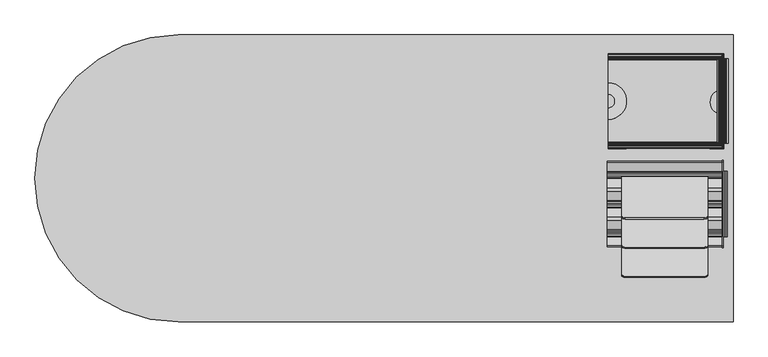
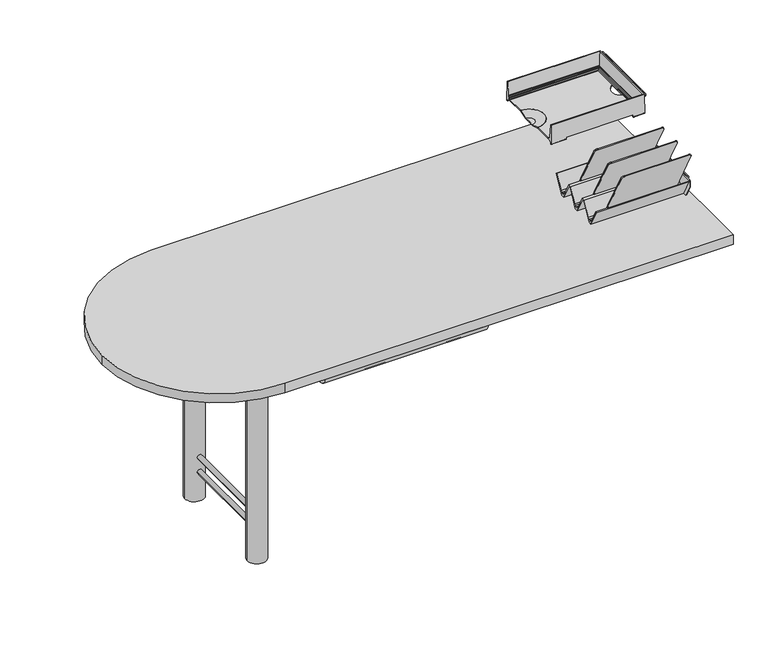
"""IFC4 building model written with IfcOpenShell, lengths in millimetres: proxy geometry, E0063 - Workstation, L-Shaped wPeninsula, Wall Mtd, 72x72 (1) : E0063 - Workstation, L-Shaped wPeninsula, Wall Mtd, 72x72 (1)."""

from ifc_helpers import new_model, si_unit, point, frame, frame_2d, origin, origin_with_axes, place, context, project, spatial, polyline, circle_curve, ellipse_curve, trimmed, segment, composite_curve, outline, extrude, source, transform, mapped, element, save
from ifc_brep_helpers import plane_surface, cylinder_surface, revolved_surface, extruded_surface, advanced_brep


def specialty_equipment_3f53ea4d(model_context):
    return source(origin(), model_context, "Body", "SolidModel", [
        extrude(outline(composite_curve([segment(trimmed(circle_curve(frame_2d((596.9, -546.1)), 7.9375), [point((596.9, -554.0375))], [point((596.9, -538.1625))], False, "CARTESIAN"), True, "CONTINUOUS"), segment(trimmed(circle_curve(frame_2d((596.9, -546.1)), 7.9375), [point((596.9, -538.1625))], [point((596.9, -554.0375))], False, "CARTESIAN"), True, "CONTINUOUS")], self_intersect=False)), frame((0.0, 381.0, 0.0), z_axis=(0.0, 1.0, 0.0), x_axis=(0.0, 0.0, 1.0)), (0.0, 0.0, 1.0), 304.8),
        extrude(outline(composite_curve([segment(trimmed(circle_curve(frame_2d((546.1, -546.1)), 7.9375), [point((546.1, -538.1625))], [point((546.1, -554.0375))], False, "CARTESIAN"), True, "CONTINUOUS"), segment(trimmed(circle_curve(frame_2d((546.1, -546.1)), 7.9375), [point((546.1, -554.0375))], [point((546.1, -538.1625))], False, "CARTESIAN"), True, "CONTINUOUS")], self_intersect=False)), frame((0.0, 381.0, 0.0), z_axis=(0.0, 1.0, 0.0), x_axis=(0.0, 0.0, 1.0)), (0.0, 0.0, 1.0), 304.8),
        extrude(outline(composite_curve([segment(trimmed(circle_curve(frame_2d((152.4, -546.1)), 7.9375), [point((152.4, -554.0375))], [point((152.4, -538.1625))], False, "CARTESIAN"), True, "CONTINUOUS"), segment(trimmed(circle_curve(frame_2d((152.4, -546.1)), 7.9375), [point((152.4, -538.1625))], [point((152.4, -554.0375))], False, "CARTESIAN"), True, "CONTINUOUS")], self_intersect=False)), frame((0.0, 381.0, 0.0), z_axis=(0.0, 1.0, 0.0), x_axis=(0.0, 0.0, 1.0)), (0.0, 0.0, 1.0), 304.8),
        extrude(outline(composite_curve([segment(trimmed(circle_curve(frame_2d((101.6, -546.1)), 7.9375), [point((101.6, -538.1625))], [point((101.6, -554.0375))], False, "CARTESIAN"), True, "CONTINUOUS"), segment(trimmed(circle_curve(frame_2d((101.6, -546.1)), 7.9375), [point((101.6, -554.0375))], [point((101.6, -538.1625))], False, "CARTESIAN"), True, "CONTINUOUS")], self_intersect=False)), frame((0.0, 381.0, 0.0), z_axis=(0.0, 1.0, 0.0), x_axis=(0.0, 0.0, 1.0)), (0.0, 0.0, 1.0), 304.8),
        extrude(outline(composite_curve([segment(trimmed(circle_curve(frame_2d((-546.1, 711.2)), 31.75), [point((-577.85, 711.2))], [point((-514.35, 711.2))], False, "CARTESIAN"), True, "CONTINUOUS"), segment(trimmed(circle_curve(frame_2d((-546.1, 711.2)), 31.75), [point((-514.35, 711.2))], [point((-577.85, 711.2))], False, "CARTESIAN"), True, "CONTINUOUS")], self_intersect=False)), origin_with_axes(), (0.0, 0.0, 1.0), 704.85),
        extrude(outline(composite_curve([segment(trimmed(circle_curve(frame_2d((-546.1, 355.6)), 31.75), [point((-577.85, 355.6))], [point((-514.35, 355.6))], False, "CARTESIAN"), True, "CONTINUOUS"), segment(trimmed(circle_curve(frame_2d((-546.1, 355.6)), 31.75), [point((-514.35, 355.6))], [point((-577.85, 355.6))], False, "CARTESIAN"), True, "CONTINUOUS")], self_intersect=False)), origin_with_axes(), (0.0, 0.0, 1.0), 704.85),
        extrude(outline(composite_curve([segment(polyline([(-571.5, 914.4), (901.7, 914.4), (901.7, 152.4), (-571.5, 152.4)]), True, "CONTINUOUS"), segment(trimmed(circle_curve(frame_2d((-571.5, 533.4)), 381.0), [point((-571.5, 152.4))], [point((-952.5, 533.4))], False, "CARTESIAN"), True, "CONTINUOUS"), segment(trimmed(circle_curve(frame_2d((-571.5, 533.4)), 381.0), [point((-952.5, 533.4))], [point((-571.5, 914.4))], False, "CARTESIAN"), True, "CONTINUOUS")], self_intersect=False)), frame((0.0, 0.0, 704.85), z_axis=(0.0, 0.0, 1.0), x_axis=(1.0, 0.0, 0.0)), (0.0, 0.0, 1.0), 31.75),
        advanced_brep(
        [(93.6625004, 174.625, 704.85), (93.6625004, 174.625, 682.625), (93.6625004, 155.575, 704.85), (-436.5624996, 155.575, 704.85), (-436.5624996, 174.625, 682.625), (-436.5624996, 174.625, 704.85), (-439.7374996, 177.8, 679.45), (-439.7374996, 152.4, 704.85), (-439.7374996, 177.8, 704.85), (96.8375004, 177.8, 679.45), (96.8375004, 177.8, 704.85), (96.8375004, 152.4, 704.85)],
        [
            (0, 1),
            (1, 2, circle_curve(frame((93.6625004, 174.6924161, 701.9595709), z_axis=(-1.0, 0.0, 0.0), x_axis=(0.0, 1.0, 0.0)), 19.3346885)),
            (2, 0),
            (3, 4, circle_curve(frame((-436.5624996, 174.6924161, 701.9595709), z_axis=(1.0, 0.0, 0.0), x_axis=(0.0, 1.0, 0.0)), 19.3346885)),
            (4, 5),
            (5, 3),
            (1, 4),
            (3, 2),
            (0, 5),
            (6, 7, circle_curve(frame((-439.7374996, 177.8, 704.85), z_axis=(-1.0, 0.0, 0.0), x_axis=(0.0, -1.0, 0.0)), 25.4)),
            (7, 8),
            (8, 6),
            (9, 10),
            (10, 11),
            (11, 9, circle_curve(frame((96.8375004, 177.8, 704.85), z_axis=(1.0, 0.0, 0.0), x_axis=(0.0, -1.0, 0.0)), 25.4)),
            (6, 9),
            (11, 7),
            (10, 8),
        ],
        [
            plane_surface(frame((93.6625004, 155.575, 704.85), z_axis=(-1.0, 0.0, 0.0), x_axis=(0.0, -1.0, 0.0))),
            plane_surface(frame((-436.5624996, 155.575, 704.85), z_axis=(1.0, 0.0, 0.0), x_axis=(0.0, 1.0, 0.0))),
            revolved_surface(polyline([(93.6625004, 194.0271046, 701.9595709), (-436.5624996, 194.0271046, 701.9595709)]), (-436.5624996, 174.6924161, 701.9595709), (1.0, 0.0, 0.0)),
            plane_surface(frame((93.6625004, 174.625, 682.625), z_axis=(0.0, -1.0, 0.0), x_axis=(-1.0, 0.0, 0.0))),
            plane_surface(frame((-439.7374996, 152.4, 704.85), z_axis=(-1.0, 0.0, 0.0), x_axis=(0.0, 0.0, 1.0))),
            plane_surface(frame((96.8375004, 152.4, 704.85), z_axis=(1.0, 0.0, 0.0), x_axis=(0.0, 0.0, -1.0))),
            cylinder_surface(frame((96.8375004, 177.8, 704.85), z_axis=(-1.0, 0.0, 0.0), x_axis=(0.0, -1.0, 0.0)), 25.4),
            plane_surface(frame((-439.7374996, 152.4, 704.85), z_axis=(0.0, 0.0, 1.0), x_axis=(1.0, 0.0, 0.0))),
            plane_surface(frame((-439.7374996, 177.8, 704.85), z_axis=(0.0, 1.0, 0.0), x_axis=(1.0, 0.0, 0.0))),
        ],
        [
            (0, [[1, 2, 3]]),
            (1, [[4, 5, 6]]),
            (2, [[-2, 7, -4, 8]]),
            (3, [[-1, 9, -5, -7]]),
            (4, [[10, 11, 12]]),
            (5, [[13, 14, 15]]),
            (6, [[-10, 16, -15, 17]]),
            (7, [[-11, -17, -14, 18], [-3, -8, -6, -9]]),
            (8, [[-12, -18, -13, -16]]),
        ],
    ),
        extrude(outline(polyline([(565.15, 657.225), (276.225, 657.225), (254.0, 679.45), (177.8, 679.45), (177.8, 704.85), (565.15, 704.85), (565.15, 657.225)])), frame((-427.0374996, 0.0, 0.0), z_axis=(1.0, 0.0, 0.0), x_axis=(0.0, 1.0, 0.0)), (0.0, 0.0, 1.0), 511.175),
        extrude(outline(composite_curve([segment(polyline([(808.2903556, 882.3765475), (805.7126048, 882.3765475)]), True, "CONTINUOUS"), segment(trimmed(circle_curve(frame_2d((805.7126048, 884.2815465)), 1.904999), [point((805.7126048, 882.3765475))], [point((805.7126048, 886.1865456))], False, "CARTESIAN"), True, "CONTINUOUS"), segment(polyline([(805.7126048, 886.1865456), (808.2903556, 886.1865456), (812.1003555, 882.3765457), (812.1003555, 878.0516564), (815.2791427, 875.4955682), (805.7342674, 875.4955682), (808.2903556, 878.0516564), (808.2903556, 882.3765475)]), True, "CONTINUOUS")], self_intersect=False)), frame((0.0, 378.4141269, 0.0), z_axis=(0.0, 1.0, 0.0), x_axis=(0.0, 0.0, 1.0)), (0.0, 0.0, 1.0), 174.0691284),
        extrude(outline(polyline([(371.5299541, 751.7791442), (349.5177621, 793.4691049), (349.5177621, 812.1041426), (353.8554334, 815.2791427), (578.1177691, 815.2791427), (581.2927682, 812.1041436), (581.2927682, 793.4691049), (559.2805852, 751.7791442), (371.5299541, 751.7791442)])), frame((872.320556, 0.0, 0.0), z_axis=(1.0, 0.0, 0.0), x_axis=(0.0, 1.0, 0.0)), (0.0, 0.0, 1.0), 3.1750122),
        extrude(outline(polyline([(470.886173, 751.7791442), (460.0105726, 751.7791442), (432.2780121, 804.3032056), (430.1364518, 806.5697873), (426.8580817, 807.4815204), (423.5797026, 806.5697873), (421.1900028, 804.0405801), (393.5331709, 751.7791442), (382.7437682, 751.7791442), (352.0214429, 809.9656902), (354.1356403, 811.0819874), (378.3004131, 765.6346538), (381.3967756, 761.9792983), (385.7432036, 759.9648546), (390.533736, 759.9648546), (394.880164, 761.9792983), (398.0654919, 765.7396803), (422.1518784, 811.1516427), (431.5246897, 811.1516427), (455.9950602, 765.1295717), (458.66358, 761.9792983), (463.0099989, 759.9648546), (467.8005404, 759.9648546), (472.1469594, 762.4146188), (475.4225609, 765.9741063), (499.2761719, 811.1516427), (508.791507, 811.1516427), (533.2619049, 765.1295189), (535.9303799, 761.9792983), (540.2767943, 759.9648546), (545.0673403, 759.9648546), (549.4137547, 761.9792983), (552.5101336, 765.6346704), (576.5429704, 811.1516472), (578.7891043, 809.9656946), (548.0667666, 751.7791442), (537.2773677, 751.7791442), (509.5448122, 804.3032065), (507.4032527, 806.5697873), (504.1248781, 807.4815204), (500.846499, 806.5697873), (498.5095414, 804.0964013), (470.886173, 751.7791442)])), frame((567.5205682, 0.0, 0.0), z_axis=(1.0, 0.0, 0.0), x_axis=(0.0, 1.0, 0.0)), (0.0, 0.0, 1.0), 304.7999878),
        advanced_brep(
        [(605.62055, 277.9568797, 961.5537347), (615.5250327, 273.7462888, 969.4824254), (824.3964237, 273.7462888, 969.4824254), (834.2205546, 277.9568797, 961.5537347), (834.2205546, 388.6816064, 753.0551802), (605.62055, 388.6816064, 753.0551802), (605.62055, 275.1547674, 960.0656519), (605.62055, 385.8794942, 751.5670974), (834.2205546, 385.8794942, 751.5670974), (834.2205546, 275.1547674, 960.0656519), (824.3964237, 270.9441766, 967.9943426), (615.5250327, 270.9441766, 967.9943426)],
        [
            (0, 1, ellipse_curve(frame((615.7887264, 277.9568797, 961.5537347), z_axis=(0.0, 0.883186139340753, 0.46902264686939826), x_axis=(-1.0, 0.0, 0.0)), 10.1681764, 8.9803925)),
            (1, 2),
            (2, 3, ellipse_curve(frame((824.0498928, 277.9568797, 961.5537347), z_axis=(0.0, 0.8831861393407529, 0.4690226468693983), x_axis=(1.0, 0.0, 0.0)), 10.1706618, 8.9825875)),
            (3, 4),
            (4, 5),
            (5, 0),
            (6, 7),
            (7, 8),
            (8, 9),
            (9, 10, ellipse_curve(frame((824.0498928, 275.1547674, 960.0656519), z_axis=(0.0, -0.8831861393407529, -0.4690226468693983), x_axis=(1.0, 0.0, 0.0)), 10.1706618, 8.9825875)),
            (10, 11),
            (11, 6, ellipse_curve(frame((615.7887264, 275.1547674, 960.0656519), z_axis=(0.0, -0.883186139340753, -0.46902264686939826), x_axis=(-1.0, 0.0, 0.0)), 10.1681764, 8.9803925)),
            (1, 11),
            (10, 2),
            (4, 8),
            (7, 5),
            (6, 0),
            (9, 3),
        ],
        [
            plane_surface(frame((605.62055, 277.9568797, 961.5537347), z_axis=(0.0, 0.883186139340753, 0.4690226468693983), x_axis=(0.0, -0.4690226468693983, 0.883186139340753))),
            plane_surface(frame((605.62055, 275.1547674, 960.0656519), z_axis=(0.0, -0.883186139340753, -0.4690226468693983), x_axis=(0.0, 0.4690226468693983, -0.883186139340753))),
            plane_surface(frame((615.5250327, 273.7462888, 969.4824254), z_axis=(0.0, -0.4690226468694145, 0.8831861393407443), x_axis=(0.0, -0.8831861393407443, -0.4690226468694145))),
            plane_surface(frame((834.2205546, 388.6816064, 753.0551802), z_axis=(0.0, 0.4690226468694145, -0.8831861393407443), x_axis=(0.0, -0.8831861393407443, -0.4690226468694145))),
            plane_surface(frame((605.62055, 388.6816064, 753.0551802), z_axis=(-1.0, 0.0, 0.0), x_axis=(0.0, -0.8831861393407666, -0.46902264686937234))),
            extruded_surface(trimmed(ellipse_curve(frame((615.7887264, 272.3526552, 958.5775691), z_axis=(0.0, 0.883186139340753, 0.46902264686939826), x_axis=(-1.0, 0.0, 0.0)), 10.1681764, 8.9803925), [point((605.62055, 272.3526552, 958.5775691))], [point((615.5250327, 268.1420643, 966.5062598))], True, "CARTESIAN"), (0.0, 2.8021122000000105, 1.4880828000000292), 3.172731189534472),
            extruded_surface(trimmed(ellipse_curve(frame((824.0498928, 272.3526552, 958.5775691), z_axis=(0.0, 0.8831861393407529, 0.4690226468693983), x_axis=(1.0, 0.0, 0.0)), 10.1706618, 8.9825875), [point((824.3964237, 268.1420643, 966.5062598))], [point((834.2205546, 272.3526552, 958.5775691))], True, "CARTESIAN"), (0.0, 2.8021122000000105, 1.4880828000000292), 3.172731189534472),
            plane_surface(frame((834.2205546, 277.9568797, 961.5537347), z_axis=(1.0, 0.0, 0.0), x_axis=(0.0, -0.8831861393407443, -0.4690226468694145))),
        ],
        [
            (0, [[1, 2, 3, 4, 5, 6]]),
            (1, [[7, 8, 9, 10, 11, 12]]),
            (2, [[-2, 13, -11, 14]]),
            (3, [[-5, 15, -8, 16]]),
            (4, [[-6, -16, -7, 17]]),
            (5, [[-1, -17, -12, -13]]),
            (6, [[-3, -14, -10, 18]]),
            (7, [[-4, -18, -9, -15]]),
        ],
    ),
        advanced_brep(
        [(605.62055, 355.2236841, 961.5537347), (615.5250327, 351.0130933, 969.4824254), (824.3964237, 351.0130933, 969.4824254), (834.2205546, 355.2236841, 961.5537347), (834.2205546, 465.9484108, 753.0551802), (605.62055, 465.9484108, 753.0551802), (605.62055, 352.4215719, 960.0656519), (605.62055, 463.1462986, 751.5670974), (834.2205546, 463.1462986, 751.5670974), (834.2205546, 352.4215719, 960.0656519), (824.3964237, 348.210981, 967.9943426), (615.5250327, 348.210981, 967.9943426)],
        [
            (0, 1, ellipse_curve(frame((615.7887264, 355.2236841, 961.5537347), z_axis=(0.0, 0.883186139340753, 0.46902264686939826), x_axis=(-1.0, 0.0, 0.0)), 10.1681764, 8.9803925)),
            (1, 2),
            (2, 3, ellipse_curve(frame((824.0498928, 355.2236841, 961.5537347), z_axis=(0.0, 0.8831861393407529, 0.4690226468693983), x_axis=(1.0, 0.0, 0.0)), 10.1706618, 8.9825875)),
            (3, 4),
            (4, 5),
            (5, 0),
            (6, 7),
            (7, 8),
            (8, 9),
            (9, 10, ellipse_curve(frame((824.0498928, 352.4215719, 960.0656519), z_axis=(0.0, -0.8831861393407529, -0.4690226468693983), x_axis=(1.0, 0.0, 0.0)), 10.1706618, 8.9825875)),
            (10, 11),
            (11, 6, ellipse_curve(frame((615.7887264, 352.4215719, 960.0656519), z_axis=(0.0, -0.883186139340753, -0.46902264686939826), x_axis=(-1.0, 0.0, 0.0)), 10.1681764, 8.9803925)),
            (1, 11),
            (10, 2),
            (4, 8),
            (7, 5),
            (6, 0),
            (9, 3),
        ],
        [
            plane_surface(frame((605.62055, 355.2236841, 961.5537347), z_axis=(0.0, 0.883186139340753, 0.4690226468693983), x_axis=(0.0, -0.4690226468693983, 0.883186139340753))),
            plane_surface(frame((605.62055, 352.4215719, 960.0656519), z_axis=(0.0, -0.883186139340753, -0.4690226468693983), x_axis=(0.0, 0.4690226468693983, -0.883186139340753))),
            plane_surface(frame((615.5250327, 351.0130933, 969.4824254), z_axis=(0.0, -0.46902264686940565, 0.883186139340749), x_axis=(0.0, -0.883186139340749, -0.46902264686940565))),
            plane_surface(frame((834.2205546, 465.9484108, 753.0551802), z_axis=(0.0, 0.46902264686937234, -0.8831861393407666), x_axis=(0.0, -0.8831861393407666, -0.46902264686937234))),
            plane_surface(frame((605.62055, 465.9484108, 753.0551802), z_axis=(-1.0, 0.0, 0.0), x_axis=(0.0, -0.8831861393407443, -0.4690226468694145))),
            extruded_surface(trimmed(ellipse_curve(frame((615.7887264, 349.6194596, 958.5775691), z_axis=(0.0, 0.883186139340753, 0.46902264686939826), x_axis=(-1.0, 0.0, 0.0)), 10.1681764, 8.9803925), [point((605.62055, 349.6194596, 958.5775691))], [point((615.5250327, 345.4088688, 966.5062598))], True, "CARTESIAN"), (0.0, 2.802112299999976, 1.4880828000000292), 3.172731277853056),
            extruded_surface(trimmed(ellipse_curve(frame((824.0498928, 349.6194596, 958.5775691), z_axis=(0.0, 0.8831861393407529, 0.4690226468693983), x_axis=(1.0, 0.0, 0.0)), 10.1706618, 8.9825875), [point((824.3964237, 345.4088688, 966.5062598))], [point((834.2205546, 349.6194596, 958.5775691))], True, "CARTESIAN"), (0.0, 2.802112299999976, 1.4880828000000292), 3.172731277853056),
            plane_surface(frame((834.2205546, 355.2236841, 961.5537347), z_axis=(1.0, 0.0, 0.0), x_axis=(0.0, -0.8831861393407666, -0.46902264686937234))),
        ],
        [
            (0, [[1, 2, 3, 4, 5, 6]]),
            (1, [[7, 8, 9, 10, 11, 12]]),
            (2, [[-2, 13, -11, 14]]),
            (3, [[-5, 15, -8, 16]]),
            (4, [[-6, -16, -7, 17]]),
            (5, [[-1, -17, -12, -13]]),
            (6, [[-3, -14, -10, 18]]),
            (7, [[-4, -18, -9, -15]]),
        ],
    ),
        advanced_brep(
        [(605.62055, 432.4904792, 961.5537347), (615.5250327, 428.2798883, 969.4824254), (824.3964237, 428.2798883, 969.4824254), (834.2205546, 432.4904792, 961.5537347), (834.2205546, 543.2152059, 753.0551802), (605.62055, 543.2152059, 753.0551802), (605.62055, 429.6883669, 960.0656519), (605.62055, 540.4130937, 751.5670974), (834.2205546, 540.4130937, 751.5670974), (834.2205546, 429.6883669, 960.0656519), (824.3964237, 425.4777761, 967.9943426), (615.5250327, 425.4777761, 967.9943426)],
        [
            (0, 1, ellipse_curve(frame((615.7887264, 432.4904792, 961.5537347), z_axis=(0.0, 0.883186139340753, 0.46902264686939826), x_axis=(-1.0, 0.0, 0.0)), 10.1681764, 8.9803925)),
            (1, 2),
            (2, 3, ellipse_curve(frame((824.0498928, 432.4904792, 961.5537347), z_axis=(0.0, 0.8831861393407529, 0.4690226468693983), x_axis=(1.0, 0.0, 0.0)), 10.1706618, 8.9825875)),
            (3, 4),
            (4, 5),
            (5, 0),
            (6, 7),
            (7, 8),
            (8, 9),
            (9, 10, ellipse_curve(frame((824.0498928, 429.6883669, 960.0656519), z_axis=(0.0, -0.8831861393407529, -0.4690226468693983), x_axis=(1.0, 0.0, 0.0)), 10.1706618, 8.9825875)),
            (10, 11),
            (11, 6, ellipse_curve(frame((615.7887264, 429.6883669, 960.0656519), z_axis=(0.0, -0.883186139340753, -0.46902264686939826), x_axis=(-1.0, 0.0, 0.0)), 10.1681764, 8.9803925)),
            (1, 11),
            (10, 2),
            (4, 8),
            (7, 5),
            (6, 0),
            (9, 3),
        ],
        [
            plane_surface(frame((605.62055, 432.4904792, 961.5537347), z_axis=(0.0, 0.883186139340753, 0.4690226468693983), x_axis=(0.0, -0.4690226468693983, 0.883186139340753))),
            plane_surface(frame((605.62055, 429.6883669, 960.0656519), z_axis=(0.0, -0.883186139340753, -0.4690226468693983), x_axis=(0.0, 0.4690226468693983, -0.883186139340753))),
            plane_surface(frame((615.5250327, 428.2798883, 969.4824254), z_axis=(0.0, -0.4690226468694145, 0.8831861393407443), x_axis=(0.0, -0.8831861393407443, -0.4690226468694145))),
            plane_surface(frame((834.2205546, 543.2152059, 753.0551802), z_axis=(0.0, 0.4690226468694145, -0.8831861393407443), x_axis=(0.0, -0.8831861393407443, -0.4690226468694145))),
            plane_surface(frame((605.62055, 543.2152059, 753.0551802), z_axis=(-1.0, 0.0, 0.0), x_axis=(0.0, -0.8831861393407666, -0.46902264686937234))),
            extruded_surface(trimmed(ellipse_curve(frame((615.7887264, 426.8862547, 958.5775691), z_axis=(0.0, 0.883186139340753, 0.46902264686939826), x_axis=(-1.0, 0.0, 0.0)), 10.1681764, 8.9803925), [point((605.62055, 426.8862547, 958.5775691))], [point((615.5250327, 422.6756639, 966.5062598))], True, "CARTESIAN"), (0.0, 2.8021122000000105, 1.4880828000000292), 3.172731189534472),
            extruded_surface(trimmed(ellipse_curve(frame((824.0498928, 426.8862547, 958.5775691), z_axis=(0.0, 0.8831861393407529, 0.4690226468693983), x_axis=(1.0, 0.0, 0.0)), 10.1706618, 8.9825875), [point((824.3964237, 422.6756639, 966.5062598))], [point((834.2205546, 426.8862547, 958.5775691))], True, "CARTESIAN"), (0.0, 2.8021122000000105, 1.4880828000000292), 3.172731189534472),
            plane_surface(frame((834.2205546, 432.4904792, 961.5537347), z_axis=(1.0, 0.0, 0.0), x_axis=(0.0, -0.8831861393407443, -0.4690226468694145))),
        ],
        [
            (0, [[1, 2, 3, 4, 5, 6]]),
            (1, [[7, 8, 9, 10, 11, 12]]),
            (2, [[-2, 13, -11, 14]]),
            (3, [[-5, 15, -8, 16]]),
            (4, [[-6, -16, -7, 17]]),
            (5, [[-1, -17, -12, -13]]),
            (6, [[-3, -14, -10, 18]]),
            (7, [[-4, -18, -9, -15]]),
        ],
    ),
        advanced_brep(
        [(569.902809, 613.6244171, 954.685821), (569.902809, 616.3021779, 954.685821), (569.902809, 619.9189952, 909.8987299), (569.902809, 620.3446051, 907.1652349), (569.902809, 621.6795346, 904.4641961), (569.902809, 623.7913243, 902.3152311), (569.902809, 626.4686499, 900.9333558), (569.902809, 629.4436319, 900.4568348), (569.902809, 629.4436319, 897.6347267), (569.902809, 624.1902961, 897.4417283), (569.902809, 621.1516189, 896.3853514), (569.902809, 618.51537, 894.5415118), (569.902809, 616.4807558, 892.0495375), (569.902809, 615.5944182, 889.0062952), (569.902809, 612.6749198, 889.2863786), (876.0103619, 613.6244171, 954.685821), (876.0103619, 863.8895229, 954.685821), (569.902809, 863.8895229, 954.685821), (569.902809, 861.211762, 954.685821), (873.3326011, 861.211762, 954.685821), (873.3326011, 616.3021779, 954.685821), (869.7157837, 619.9189952, 909.8987299), (869.2901738, 620.3446051, 907.1652349), (867.9552444, 621.6795346, 904.4641961), (865.8434547, 623.7913243, 902.3152311), (863.166129, 626.4686499, 900.9333558), (860.1911471, 629.4436319, 900.4568348), (860.1911471, 629.4436319, 897.6347267), (865.4444829, 624.1902961, 897.4417283), (868.48316, 621.1516189, 896.3853514), (839.8062283, 621.1516189, 896.3853514), (618.6180678, 621.1516189, 896.3853514), (618.6180678, 618.51537, 894.5415118), (871.119409, 618.51537, 894.5415118), (839.8062283, 618.51537, 894.5415118), (618.6180678, 616.4807558, 892.0495375), (873.1540232, 616.4807558, 892.0495375), (839.8062283, 616.4807558, 892.0495375), (618.6180678, 615.5944182, 889.0062952), (874.0403608, 615.5944182, 889.0062952), (839.8062283, 615.5944182, 889.0062952), (618.6180678, 612.6749198, 889.2863786), (876.9598592, 612.6749198, 889.2863786), (839.8062283, 612.6749198, 889.2863786), (618.6180678, 612.7779857, 896.3853514), (839.8062283, 612.7779857, 896.3853514), (869.7157837, 857.5949447, 909.8987299), (869.2901738, 857.1693348, 907.1652349), (867.9552444, 855.8344053, 904.4641961), (865.8434547, 853.7226156, 902.3152311), (863.166129, 851.04529, 900.9333558), (860.1911471, 848.070308, 900.4568348), (860.1911471, 848.070308, 897.6347267), (865.4444829, 853.3236438, 897.4417283), (868.48316, 856.362321, 896.3853514), (871.119409, 858.9985699, 894.5415118), (873.1540232, 861.0331841, 892.0495375), (874.0403608, 861.9195217, 889.0062952), (876.9598592, 864.8390201, 889.2863786), (569.902809, 864.8390201, 889.2863786), (569.902809, 861.9195217, 889.0062952), (569.902809, 861.0331841, 892.0495375), (569.902809, 858.9985699, 894.5415118), (569.902809, 856.362321, 896.3853514), (569.902809, 853.3236438, 897.4417283), (569.902809, 848.070308, 897.6347267), (569.902809, 848.070308, 900.4568348), (569.902809, 851.04529, 900.9333558), (569.902809, 853.7226156, 902.3152311), (569.902809, 855.8344053, 904.4641961), (569.902809, 857.1693348, 907.1652349), (569.902809, 857.5949447, 909.8987299), (618.6180678, 856.362321, 896.3853514), (839.8062283, 856.362321, 896.3853514), (839.8062283, 858.9985699, 894.5415118), (618.6180678, 858.9985699, 894.5415118), (839.8062283, 861.0331841, 892.0495375), (618.6180678, 861.0331841, 892.0495375), (839.8062283, 861.9195217, 889.0062952), (618.6180678, 861.9195217, 889.0062952), (839.8062283, 864.8390201, 889.2863786), (618.6180678, 864.8390201, 889.2863786), (839.8062283, 864.7359542, 896.3853514), (618.6180678, 864.7359542, 896.3853514)],
        [
            (0, 1),
            (1, 2),
            (2, 3),
            (3, 4),
            (4, 5),
            (5, 6),
            (6, 7),
            (7, 8),
            (8, 9),
            (9, 10),
            (10, 11),
            (11, 12),
            (12, 13),
            (13, 14, circle_curve(frame((569.902809, 614.1710248, 889.5252981), z_axis=(-1.0, 0.0, 0.0), x_axis=(0.0, 1.0, 0.0)), 1.515062)),
            (14, 0),
            (0, 15),
            (15, 16),
            (16, 17),
            (17, 18),
            (18, 19),
            (19, 20),
            (20, 1),
            (20, 21),
            (21, 2),
            (21, 22),
            (22, 3),
            (22, 23),
            (23, 4),
            (23, 24),
            (24, 5),
            (24, 25),
            (25, 6),
            (25, 26),
            (26, 7),
            (26, 27),
            (27, 8),
            (27, 28),
            (28, 9),
            (28, 29),
            (29, 30),
            (30, 31),
            (31, 10),
            (31, 32),
            (32, 11),
            (29, 33),
            (33, 34),
            (34, 30),
            (32, 35),
            (35, 12),
            (33, 36),
            (36, 37),
            (37, 34),
            (35, 38),
            (38, 13),
            (36, 39),
            (39, 40),
            (40, 37),
            (38, 41, circle_curve(frame((618.6180678, 614.1710248, 889.5252981), z_axis=(-1.0, 0.0, 0.0), x_axis=(0.0, 1.0, 0.0)), 1.515062)),
            (41, 14),
            (39, 42, ellipse_curve(frame((875.4637542, 614.1710248, 889.5252981), z_axis=(-0.7071067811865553, -0.7071067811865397, 0.0), x_axis=(-0.7071067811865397, 0.7071067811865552, 0.0)), 2.1426212, 1.515062)),
            (42, 43),
            (43, 40, circle_curve(frame((839.8062283, 614.1710248, 889.5252981), z_axis=(1.0, 0.0, 0.0), x_axis=(0.0, 1.0, 0.0)), 1.515062)),
            (41, 44),
            (44, 45),
            (45, 43),
            (42, 15),
            (19, 46),
            (46, 21),
            (46, 47),
            (47, 22),
            (47, 48),
            (48, 23),
            (48, 49),
            (49, 24),
            (49, 50),
            (50, 25),
            (50, 51),
            (51, 26),
            (51, 52),
            (52, 27),
            (52, 53),
            (53, 28),
            (53, 54),
            (54, 29),
            (54, 55),
            (55, 33),
            (55, 56),
            (56, 36),
            (56, 57),
            (57, 39),
            (57, 58, ellipse_curve(frame((875.4637542, 863.3429151, 889.5252981), z_axis=(0.7071067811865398, -0.7071067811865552, 0.0), x_axis=(-0.7071067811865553, -0.7071067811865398, 0.0)), 2.1426212, 1.515062)),
            (58, 42),
            (58, 16),
            (17, 59),
            (59, 60, circle_curve(frame((569.902809, 863.3429151, 889.5252981), z_axis=(-1.0, 0.0, 0.0), x_axis=(0.0, -1.0, 0.0)), 1.515062)),
            (60, 61),
            (61, 62),
            (62, 63),
            (63, 64),
            (64, 65),
            (65, 66),
            (66, 67),
            (67, 68),
            (68, 69),
            (69, 70),
            (70, 71),
            (71, 18),
            (71, 46),
            (70, 47),
            (69, 48),
            (68, 49),
            (67, 50),
            (66, 51),
            (65, 52),
            (64, 53),
            (63, 72),
            (72, 73),
            (73, 54),
            (73, 74),
            (74, 55),
            (62, 75),
            (75, 72),
            (74, 76),
            (76, 56),
            (61, 77),
            (77, 75),
            (76, 78),
            (78, 57),
            (60, 79),
            (79, 77),
            (78, 80, circle_curve(frame((839.8062283, 863.3429151, 889.5252981), z_axis=(1.0, 0.0, 0.0), x_axis=(0.0, -1.0, 0.0)), 1.515062)),
            (80, 58),
            (59, 81),
            (81, 79, circle_curve(frame((618.6180678, 863.3429151, 889.5252981), z_axis=(-1.0, 0.0, 0.0), x_axis=(0.0, -1.0, 0.0)), 1.515062)),
            (80, 82),
            (82, 83),
            (83, 81),
            (45, 30),
            (73, 82),
            (44, 31),
            (72, 83),
        ],
        [
            plane_surface(frame((569.902809, 616.3021779, 954.685821), z_axis=(-1.0, 0.0, 0.0), x_axis=(0.0, 0.0, 1.0))),
            plane_surface(frame((569.902809, 613.6244171, 954.685821), z_axis=(0.0, 0.0, 1.0), x_axis=(1.0, 0.0, 0.0))),
            plane_surface(frame((569.902809, 616.3021779, 954.685821), z_axis=(0.0, 0.9967551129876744, 0.08049375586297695), x_axis=(1.0, 0.0, 0.0))),
            plane_surface(frame((569.902809, 619.9189952, 909.8987299), z_axis=(0.0, 0.9880945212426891, 0.15384803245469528), x_axis=(1.0, 0.0, 0.0))),
            plane_surface(frame((569.902809, 620.3446051, 907.1652349), z_axis=(0.0, 0.8964873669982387, 0.4430692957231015), x_axis=(1.0, 0.0, 0.0))),
            plane_surface(frame((569.902809, 621.6795346, 904.4641961), z_axis=(0.0, 0.7132491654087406, 0.7009105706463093), x_axis=(1.0, 0.0, 0.0))),
            plane_surface(frame((569.902809, 623.7913243, 902.3152311), z_axis=(0.0, 0.4586507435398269, 0.8886166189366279), x_axis=(1.0, 0.0, 0.0))),
            plane_surface(frame((569.902809, 626.4686499, 900.9333558), z_axis=(0.0, 0.15816001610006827, 0.9874134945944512), x_axis=(1.0, 0.0, 0.0))),
            plane_surface(frame((569.902809, 629.4436319, 900.4568348), z_axis=(0.0, 1.0, 0.0), x_axis=(1.0, 0.0, 0.0))),
            plane_surface(frame((569.902809, 629.4436319, 897.6347267), z_axis=(0.0, 0.036713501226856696, -0.9993258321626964), x_axis=(1.0, 0.0, 0.0))),
            plane_surface(frame((569.902809, 624.1902961, 897.4417283), z_axis=(0.0, 0.32836690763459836, -0.9445502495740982), x_axis=(1.0, 0.0, 0.0))),
            plane_surface(frame((569.902809, 621.1516189, 896.3853514), z_axis=(0.0, 0.5731421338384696, -0.8194559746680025), x_axis=(1.0, 0.0, 0.0))),
            plane_surface(frame((569.902809, 618.51537, 894.5415118), z_axis=(0.0, 0.7746079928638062, -0.6324416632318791), x_axis=(1.0, 0.0, 0.0))),
            plane_surface(frame((569.902809, 616.4807558, 892.0495375), z_axis=(0.0, 0.960108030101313, -0.27962934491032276), x_axis=(1.0, 0.0, 0.0))),
            cylinder_surface(frame((569.902809, 614.1710248, 889.5252981), z_axis=(-1.0, 0.0, 0.0), x_axis=(0.0, 1.0, 0.0)), 1.515062),
            plane_surface(frame((569.902809, 612.6749198, 889.2863786), z_axis=(0.0, -0.9998946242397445, 0.014516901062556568), x_axis=(1.0, 0.0, 0.0))),
            plane_surface(frame((873.3326011, 616.3021779, 954.685821), z_axis=(-0.9967551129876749, 0.0, 0.08049375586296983), x_axis=(0.0, 1.0, 0.0))),
            plane_surface(frame((869.7157837, 619.9189952, 909.8987299), z_axis=(-0.9880945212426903, 0.0, 0.15384803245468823), x_axis=(0.0, 1.0, 0.0))),
            plane_surface(frame((869.2901738, 620.3446051, 907.1652349), z_axis=(-0.8964873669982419, 0.0, 0.44306929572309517), x_axis=(0.0, 1.0, 0.0))),
            plane_surface(frame((867.9552444, 621.6795346, 904.4641961), z_axis=(-0.7132491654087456, 0.0, 0.7009105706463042), x_axis=(0.0, 1.0, 0.0))),
            plane_surface(frame((865.8434547, 623.7913243, 902.3152311), z_axis=(-0.45865074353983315, 0.0, 0.8886166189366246), x_axis=(0.0, 1.0, 0.0))),
            plane_surface(frame((863.166129, 626.4686499, 900.9333558), z_axis=(-0.15816001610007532, 0.0, 0.98741349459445), x_axis=(0.0, 1.0, 0.0))),
            plane_surface(frame((860.1911471, 629.4436319, 900.4568348), z_axis=(-1.0, 0.0, 0.0), x_axis=(0.0, 1.0, 0.0))),
            plane_surface(frame((860.1911471, 629.4436319, 897.6347267), z_axis=(-0.03671350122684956, 0.0, -0.9993258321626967), x_axis=(0.0, 1.0, 0.0))),
            plane_surface(frame((865.4444829, 624.1902961, 897.4417283), z_axis=(-0.32836690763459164, 0.0, -0.9445502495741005), x_axis=(0.0, 1.0, 0.0))),
            plane_surface(frame((868.48316, 621.1516189, 896.3853514), z_axis=(-0.5731421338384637, 0.0, -0.8194559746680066), x_axis=(0.0, 1.0, 0.0))),
            plane_surface(frame((871.119409, 618.51537, 894.5415118), z_axis=(-0.7746079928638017, 0.0, -0.6324416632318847), x_axis=(0.0, 1.0, 0.0))),
            plane_surface(frame((873.1540232, 616.4807558, 892.0495375), z_axis=(-0.9601080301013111, 0.0, -0.27962934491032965), x_axis=(0.0, 1.0, 0.0))),
            cylinder_surface(frame((875.4637542, 616.3021779, 889.5252981), z_axis=(0.0, -1.0, 0.0), x_axis=(-1.0, 0.0, 0.0)), 1.515062),
            plane_surface(frame((876.9598592, 612.6749198, 889.2863786), z_axis=(0.9998946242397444, 0.0, 0.014516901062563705), x_axis=(0.0, 1.0, 0.0))),
            plane_surface(frame((569.902809, 861.211762, 954.685821), z_axis=(-1.0, 0.0, 0.0), x_axis=(0.0, 0.0, 1.0))),
            plane_surface(frame((873.3326011, 861.211762, 954.685821), z_axis=(0.0, -0.9967551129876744, 0.08049375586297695), x_axis=(-1.0, 0.0, 0.0))),
            plane_surface(frame((869.7157837, 857.5949447, 909.8987299), z_axis=(0.0, -0.9880945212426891, 0.15384803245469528), x_axis=(-1.0, 0.0, 0.0))),
            plane_surface(frame((869.2901738, 857.1693348, 907.1652349), z_axis=(0.0, -0.8964873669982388, 0.44306929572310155), x_axis=(-1.0, 0.0, 0.0))),
            plane_surface(frame((867.9552444, 855.8344053, 904.4641961), z_axis=(0.0, -0.7132491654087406, 0.7009105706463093), x_axis=(-1.0, 0.0, 0.0))),
            plane_surface(frame((865.8434547, 853.7226156, 902.3152311), z_axis=(0.0, -0.4586507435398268, 0.8886166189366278), x_axis=(-1.0, 0.0, 0.0))),
            plane_surface(frame((863.166129, 851.04529, 900.9333558), z_axis=(0.0, -0.15816001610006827, 0.9874134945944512), x_axis=(-1.0, 0.0, 0.0))),
            plane_surface(frame((860.1911471, 848.070308, 900.4568348), z_axis=(0.0, -1.0, 0.0), x_axis=(-1.0, 0.0, 0.0))),
            plane_surface(frame((860.1911471, 848.070308, 897.6347267), z_axis=(0.0, -0.036713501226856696, -0.9993258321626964), x_axis=(-1.0, 0.0, 0.0))),
            plane_surface(frame((865.4444829, 853.3236438, 897.4417283), z_axis=(0.0, -0.32836690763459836, -0.9445502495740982), x_axis=(-1.0, 0.0, 0.0))),
            plane_surface(frame((868.48316, 856.362321, 896.3853514), z_axis=(0.0, -0.5731421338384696, -0.8194559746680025), x_axis=(-1.0, 0.0, 0.0))),
            plane_surface(frame((871.119409, 858.9985699, 894.5415118), z_axis=(0.0, -0.7746079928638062, -0.6324416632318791), x_axis=(-1.0, 0.0, 0.0))),
            plane_surface(frame((873.1540232, 861.0331841, 892.0495375), z_axis=(0.0, -0.9601080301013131, -0.2796293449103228), x_axis=(-1.0, 0.0, 0.0))),
            cylinder_surface(frame((873.3326011, 863.3429151, 889.5252981), z_axis=(1.0, 0.0, 0.0), x_axis=(0.0, -1.0, 0.0)), 1.515062),
            plane_surface(frame((876.9598592, 864.8390201, 889.2863786), z_axis=(0.0, 0.9998946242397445, 0.014516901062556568), x_axis=(-1.0, 0.0, 0.0))),
            plane_surface(frame((839.8062283, 591.7884212, 878.5670974), z_axis=(-1.0, 0.0, 0.0), x_axis=(0.0, 1.0, 0.0))),
            plane_surface(frame((839.8062283, 591.7884212, 896.3853514), z_axis=(0.0, 0.0, -1.0), x_axis=(0.0, 1.0, 0.0))),
            plane_surface(frame((618.6180678, 591.7884212, 896.3853514), z_axis=(1.0, 0.0, 0.0), x_axis=(0.0, 1.0, 0.0))),
        ],
        [
            (0, [[1, 2, 3, 4, 5, 6, 7, 8, 9, 10, 11, 12, 13, 14, 15]]),
            (1, [[-1, 16, 17, 18, 19, 20, 21, 22]]),
            (2, [[-2, -22, 23, 24]]),
            (3, [[-3, -24, 25, 26]]),
            (4, [[-4, -26, 27, 28]]),
            (5, [[-5, -28, 29, 30]]),
            (6, [[-6, -30, 31, 32]]),
            (7, [[-7, -32, 33, 34]]),
            (8, [[-8, -34, 35, 36]]),
            (9, [[-9, -36, 37, 38]]),
            (10, [[-10, -38, 39, 40, 41, 42]]),
            (11, [[-11, -42, 43, 44]]),
            (11, [[45, 46, 47, -40]]),
            (12, [[-12, -44, 48, 49]]),
            (12, [[50, 51, 52, -46]]),
            (13, [[-13, -49, 53, 54]]),
            (13, [[55, 56, 57, -51]]),
            (14, [[-14, -54, 58, 59]]),
            (14, [[60, 61, 62, -56]]),
            (15, [[-15, -59, 63, 64, 65, -61, 66, -16]]),
            (16, [[-21, 67, 68, -23]]),
            (17, [[-25, -68, 69, 70]]),
            (18, [[-27, -70, 71, 72]]),
            (19, [[-29, -72, 73, 74]]),
            (20, [[-31, -74, 75, 76]]),
            (21, [[-33, -76, 77, 78]]),
            (22, [[-35, -78, 79, 80]]),
            (23, [[-37, -80, 81, 82]]),
            (24, [[-39, -82, 83, 84]]),
            (25, [[-45, -84, 85, 86]]),
            (26, [[-50, -86, 87, 88]]),
            (27, [[-55, -88, 89, 90]]),
            (28, [[-60, -90, 91, 92]]),
            (29, [[-17, -66, -92, 93]]),
            (30, [[-19, 94, 95, 96, 97, 98, 99, 100, 101, 102, 103, 104, 105, 106, 107]]),
            (31, [[-20, -107, 108, -67]]),
            (32, [[-69, -108, -106, 109]]),
            (33, [[-71, -109, -105, 110]]),
            (34, [[-73, -110, -104, 111]]),
            (35, [[-75, -111, -103, 112]]),
            (36, [[-77, -112, -102, 113]]),
            (37, [[-79, -113, -101, 114]]),
            (38, [[-81, -114, -100, 115]]),
            (39, [[-83, -115, -99, 116, 117, 118]]),
            (40, [[-85, -118, 119, 120]]),
            (40, [[-98, 121, 122, -116]]),
            (41, [[-87, -120, 123, 124]]),
            (41, [[-97, 125, 126, -121]]),
            (42, [[-89, -124, 127, 128]]),
            (42, [[-96, 129, 130, -125]]),
            (43, [[-91, -128, 131, 132]]),
            (43, [[-95, 133, 134, -129]]),
            (44, [[-18, -93, -132, 135, 136, 137, -133, -94]]),
            (45, [[138, -47, -52, -57, -62, -65]]),
            (45, [[139, -135, -131, -127, -123, -119]]),
            (46, [[-138, -64, 140, -41]]),
            (46, [[-139, -117, 141, -136]]),
            (47, [[-140, -63, -58, -53, -48, -43]]),
            (47, [[-141, -122, -126, -130, -134, -137]]),
        ],
    ),
        advanced_brep(
        [(569.9910727, 757.4930574, 889.0), (569.9910727, 738.4430574, 889.0), (569.9910727, 738.4430574, 891.5825046), (569.9910727, 756.6107989, 891.5825046), (569.9910727, 787.0700276, 900.4566434), (569.9910727, 787.0700276, 897.6170974), (569.9910727, 719.3930574, 889.0), (569.9910727, 689.8160872, 897.6170974), (569.9910727, 689.8160872, 900.4566434), (569.9910727, 720.2753159, 891.5825046)],
        [
            (0, 1),
            (1, 2),
            (2, 3),
            (3, 4),
            (4, 5),
            (5, 0),
            (6, 7),
            (7, 8),
            (8, 9),
            (9, 2),
            (1, 6),
            (6, 0, circle_curve(frame((569.9910727, 738.4430574, 889.0), z_axis=(0.0, 0.0, 1.0), x_axis=(0.0, 1.0, 0.0)), 19.05)),
            (5, 7, circle_curve(frame((569.9910727, 738.4430574, 897.6170974), z_axis=(0.0, 0.0, -1.0), x_axis=(0.0, 1.0, 0.0)), 48.6269702)),
            (4, 8, circle_curve(frame((569.9910727, 738.4430574, 900.4566434), z_axis=(0.0, 0.0, -1.0), x_axis=(0.0, 1.0, 0.0)), 48.6269702)),
            (3, 9, circle_curve(frame((569.9910727, 738.4430574, 891.5825046), z_axis=(0.0, 0.0, -1.0), x_axis=(0.0, 1.0, 0.0)), 18.1677415)),
        ],
        [
            plane_surface(frame((569.9910727, 738.4430574, 891.5825046), z_axis=(-1.0, 0.0, 0.0), x_axis=(0.0, 1.0, 0.0))),
            plane_surface(frame((569.9910727, 738.4430574, 891.5825046), z_axis=(-1.0, 0.0, 0.0), x_axis=(0.0, -1.0, 0.0))),
            revolved_surface(polyline([(569.9910727, 757.4930574, 889.0), (569.9910727, 787.0700276, 897.6170974)]), (569.9910727, 738.4430574, 891.5825046), (0.0, 0.0, 1.0)),
            cylinder_surface(frame((569.9910727, 738.4430574, 891.5825046), z_axis=(0.0, 0.0, 1.0), x_axis=(0.0, 1.0, 0.0)), 48.6269702),
            revolved_surface(polyline([(569.9910727, 787.0700276, 900.4566434), (569.9910727, 756.6107989, 891.5825046)]), (569.9910727, 738.4430574, 891.5825046), (0.0, 0.0, 1.0)),
            plane_surface(frame((569.9910727, 738.4430574, 891.5825046), z_axis=(0.0, 0.0, 1.0), x_axis=(0.0, 1.0, 0.0))),
            plane_surface(frame((569.9910727, 738.4430574, 889.0), z_axis=(0.0, 0.0, -1.0), x_axis=(0.0, 1.0, 0.0))),
        ],
        [
            (0, [[1, 2, 3, 4, 5, 6]]),
            (1, [[7, 8, 9, 10, -2, 11]]),
            (2, [[12, -6, 13, -7]]),
            (3, [[-13, -5, 14, -8]]),
            (4, [[-14, -4, 15, -9]]),
            (5, [[-15, -3, -10]]),
            (6, [[-1, -12, -11]]),
        ],
    ),
        extrude(outline(composite_curve([segment(polyline([(569.9359172, 787.0996294), (569.9359172, 848.070308), (860.1911471, 848.070308), (860.1911471, 766.1501837)]), True, "CONTINUOUS"), segment(trimmed(circle_curve(frame_2d((872.5193588, 735.848961)), 32.7131304), [point((860.1911471, 766.1501837))], [point((860.4033518, 705.4622653))], True, "CARTESIAN"), True, "CONTINUOUS"), segment(polyline([(860.4033518, 705.4622653), (860.4033518, 629.4436319), (569.9359172, 629.4436319), (569.9359172, 689.8457516)]), True, "CONTINUOUS"), segment(trimmed(circle_curve(frame_2d((569.9910976, 738.4726905)), 48.6269702), [point((569.9359172, 689.8457516))], [point((569.9359172, 787.0996294))], True, "CARTESIAN"), True, "CONTINUOUS")], self_intersect=False)), frame((0.0, 0.0, 897.6170974), z_axis=(0.0, 0.0, 1.0), x_axis=(1.0, 0.0, 0.0)), (0.0, 0.0, 1.0), 2.8395461),
        extrude(outline(composite_curve([segment(polyline([(946.8573609, 884.73711), (946.8573609, 880.3614498), (949.2047581, 876.0661768), (940.6999627, 876.0661768), (943.04736, 880.3614498), (943.04736, 883.9751141), (942.2853607, 884.7371134), (938.8563639, 884.7371134)]), True, "CONTINUOUS"), segment(trimmed(circle_curve(frame_2d((938.8563639, 886.6421122)), 1.9049988), [point((938.8563639, 884.7371134))], [point((938.8563639, 888.5471109))], False, "CARTESIAN"), True, "CONTINUOUS"), segment(polyline([(938.8563639, 888.5471109), (943.04736, 888.5471109)]), True, "CONTINUOUS"), segment(trimmed(circle_curve(frame_2d((943.04736, 884.73711)), 3.8100009), [point((943.04736, 888.5471109))], [point((946.8573609, 884.73711))], False, "CARTESIAN"), True, "CONTINUOUS")], self_intersect=False)), frame((0.0, 626.2171891, 0.0), z_axis=(0.0, 1.0, 0.0), x_axis=(0.0, 0.0, 1.0)), (0.0, 0.0, 1.0), 225.0795617),
        extrude(outline(composite_curve([segment(polyline([(957.5171629, 876.0661768), (954.6856296, 876.0661768), (954.6856296, 877.9109172), (957.5171629, 877.9109172)]), True, "CONTINUOUS"), segment(trimmed(circle_curve(frame_2d((957.2118961, 876.988547)), 0.9715733), [point((957.5171629, 877.9109172))], [point((957.5171629, 876.0661768))], False, "CARTESIAN"), True, "CONTINUOUS")], self_intersect=False)), frame((0.0, 626.2171891, 0.0), z_axis=(0.0, 1.0, 0.0), x_axis=(0.0, 0.0, 1.0)), (0.0, 0.0, 1.0), 225.0795617),
    ])


if __name__ == "__main__":
    model = new_model("IFC4")
    model_context = context("Model", 3, world=origin())
    ifc_project = project(units=[si_unit("LENGTHUNIT", "METRE", prefix="MILLI")], contexts=[model_context])
    site = spatial("IfcSite", under=ifc_project)
    building = spatial("IfcBuilding", under=site)
    placement = place(None, origin())
    specialty_equipment_shape = specialty_equipment_3f53ea4d(model_context)
    element("IfcBuildingElementProxy", 1, Name="E0063 - Workstation, L-Shaped wPeninsula, Wall Mtd, 72x72 (1) : E0063 - Workstation, L-Shaped wPeninsula, Wall Mtd, 72x72 (1)", ObjectType="E0063 - Workstation, L-Shaped wPeninsula, Wall Mtd, 72x72 (1) : E0063 - Workstation, L-Shaped wPeninsula, Wall Mtd, 72x72 (1)", at=placement, inside=building, context=model_context, shape_type="MappedRepresentation", body=[
        mapped(specialty_equipment_shape, transform((0.0, 0.0, 0.0), x_axis=(1.0, 0.0, 0.0), y_axis=(0.0, 1.0, 0.0), z_axis=(0.0, 0.0, 1.0))),
    ])
    save(model, "model.ifc")
